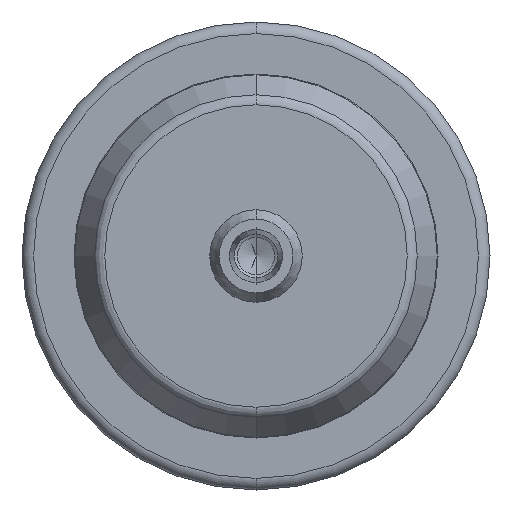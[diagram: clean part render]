
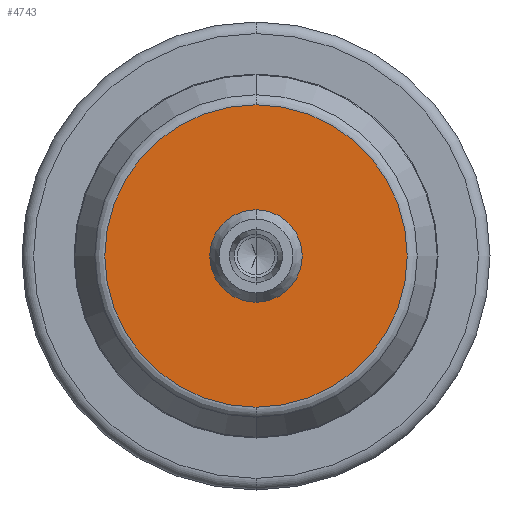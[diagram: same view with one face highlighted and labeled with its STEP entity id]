
A CAD part, front view. The second image highlights one B-rep face of the part: STEP entity #4743.
In plain terms, the highlighted planar face has unit normal (0, -1, 0).
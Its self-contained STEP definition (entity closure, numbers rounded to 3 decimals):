
#115 = PLANE ( 'NONE',  #8645 ) ;
#381 = AXIS2_PLACEMENT_3D ( 'NONE', #6602, #555, #7303 ) ;
#555 = DIRECTION ( 'NONE',  ( 0., -1., 0. ) ) ;
#768 = ORIENTED_EDGE ( 'NONE', *, *, #7457, .T. ) ;
#909 = VERTEX_POINT ( 'NONE', #2221 ) ;
#987 = VERTEX_POINT ( 'NONE', #1025 ) ;
#1025 = CARTESIAN_POINT ( 'NONE',  ( 0., -17., 26.17 ) ) ;
#1159 = DIRECTION ( 'NONE',  ( 0., -1., 0. ) ) ;
#1553 = DIRECTION ( 'NONE',  ( 0., -1., 0. ) ) ;
#1730 = DIRECTION ( 'NONE',  ( 0., 0., -1. ) ) ;
#1890 = VERTEX_POINT ( 'NONE', #2190 ) ;
#2019 = CIRCLE ( 'NONE', #6956, 6. ) ;
#2190 = CARTESIAN_POINT ( 'NONE',  ( 0., -17., -6. ) ) ;
#2221 = CARTESIAN_POINT ( 'NONE',  ( 0., -17., -26.17 ) ) ;
#2430 = VERTEX_POINT ( 'NONE', #3968 ) ;
#2491 = AXIS2_PLACEMENT_3D ( 'NONE', #8547, #1159, #1730 ) ;
#2788 = DIRECTION ( 'NONE',  ( 0., -1., 0. ) ) ;
#3051 = ORIENTED_EDGE ( 'NONE', *, *, #3943, .F. ) ;
#3514 = CARTESIAN_POINT ( 'NONE',  ( 0., -17., 0. ) ) ;
#3557 = DIRECTION ( 'NONE',  ( 0., 0., -1. ) ) ;
#3577 = DIRECTION ( 'NONE',  ( 0., 0., -1. ) ) ;
#3626 = CARTESIAN_POINT ( 'NONE',  ( 26.17, -17., 0. ) ) ;
#3656 = EDGE_CURVE ( 'NONE', #909, #987, #6018, .T. ) ;
#3943 = EDGE_CURVE ( 'NONE', #1890, #2430, #6175, .T. ) ;
#3968 = CARTESIAN_POINT ( 'NONE',  ( 0., -17., 6. ) ) ;
#4364 = DIRECTION ( 'NONE',  ( 0., 0., -1. ) ) ;
#4382 = AXIS2_PLACEMENT_3D ( 'NONE', #3514, #4973, #3557 ) ;
#4743 = ADVANCED_FACE ( 'NONE', ( #4995, #6165 ), #115, .T. ) ;
#4973 = DIRECTION ( 'NONE',  ( 0., -1., 0. ) ) ;
#4995 = FACE_OUTER_BOUND ( 'NONE', #8377, .T. ) ;
#5383 = ORIENTED_EDGE ( 'NONE', *, *, #3656, .T. ) ;
#6018 = CIRCLE ( 'NONE', #381, 26.17 ) ;
#6165 = FACE_BOUND ( 'NONE', #8104, .T. ) ;
#6175 = CIRCLE ( 'NONE', #2491, 6. ) ;
#6602 = CARTESIAN_POINT ( 'NONE',  ( 0., -17., 0. ) ) ;
#6956 = AXIS2_PLACEMENT_3D ( 'NONE', #8321, #1553, #4364 ) ;
#7188 = ORIENTED_EDGE ( 'NONE', *, *, #7915, .F. ) ;
#7303 = DIRECTION ( 'NONE',  ( 0., 0., -1. ) ) ;
#7457 = EDGE_CURVE ( 'NONE', #987, #909, #8214, .T. ) ;
#7915 = EDGE_CURVE ( 'NONE', #2430, #1890, #2019, .T. ) ;
#8104 = EDGE_LOOP ( 'NONE', ( #3051, #7188 ) ) ;
#8214 = CIRCLE ( 'NONE', #4382, 26.17 ) ;
#8321 = CARTESIAN_POINT ( 'NONE',  ( 0., -17., 0. ) ) ;
#8377 = EDGE_LOOP ( 'NONE', ( #5383, #768 ) ) ;
#8547 = CARTESIAN_POINT ( 'NONE',  ( 0., -17., 0. ) ) ;
#8645 = AXIS2_PLACEMENT_3D ( 'NONE', #3626, #2788, #3577 ) ;
